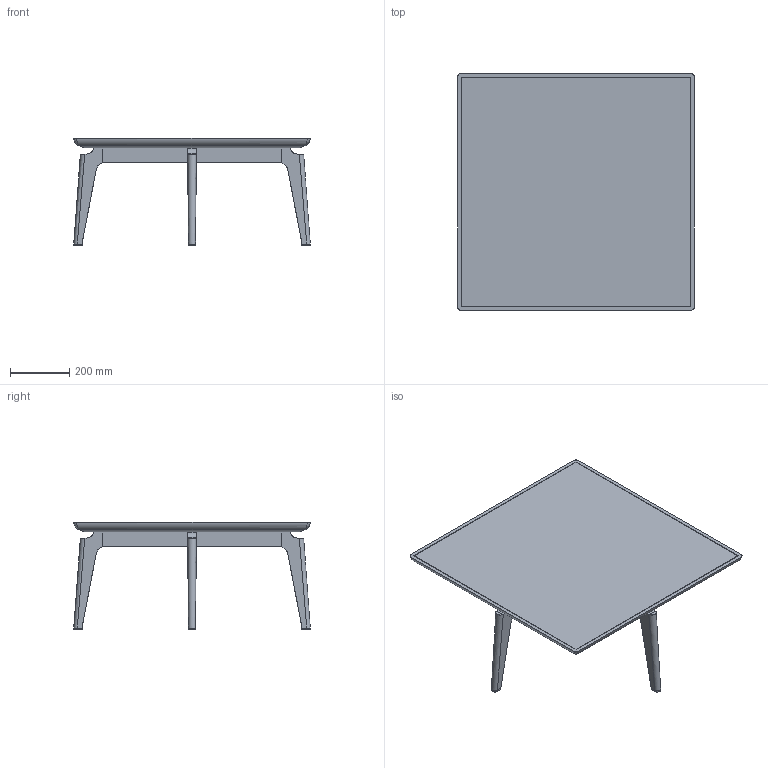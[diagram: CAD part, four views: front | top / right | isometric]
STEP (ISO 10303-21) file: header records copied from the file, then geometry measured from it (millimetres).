
FILE_DESCRIPTION(/* description */ (''),/* implementation_level */ '2;1');
FILE_NAME(/* name */ 'C:\Users\ronnie\Desktop\BLEND (Colombo)\56650-1-2-3-4 BLEND 80x80 (wood base).stp',/* time_stamp */ '2016-07-25T13:56:48+02:00',/* author */ ('ronnie'),/* organization */ (''),/* preprocessor_version */ 'ST-DEVELOPER v16.5',/* originating_system */ 'AutoCAD Mechanical',/* authorisation */ '');
FILE_SCHEMA (('AUTOMOTIVE_DESIGN { 1 0 10303 214 3 1 1 }'));
Length unit declared in the file: millimetre
Products named in the file (1): Product
Bounding box: 800 x 800 x 362 mm (x, y, z)
Volume: 12338592.7 mm3; surface area: 2265663.1 mm2
Topology: 11 solids, 11 shells, 196 faces, 468 edges, 300 vertices
Faces by surface type: plane 108, cylinder 48, bspline 40
Full cylindrical faces by diameter (mm): 3 x8
Entity records: 7371 total; most frequent: CARTESIAN_POINT 3031, ORIENTED_EDGE 914, DIRECTION 803, EDGE_CURVE 457, VERTEX_POINT 300, AXIS2_PLACEMENT_3D 269, LINE 265, VECTOR 265
